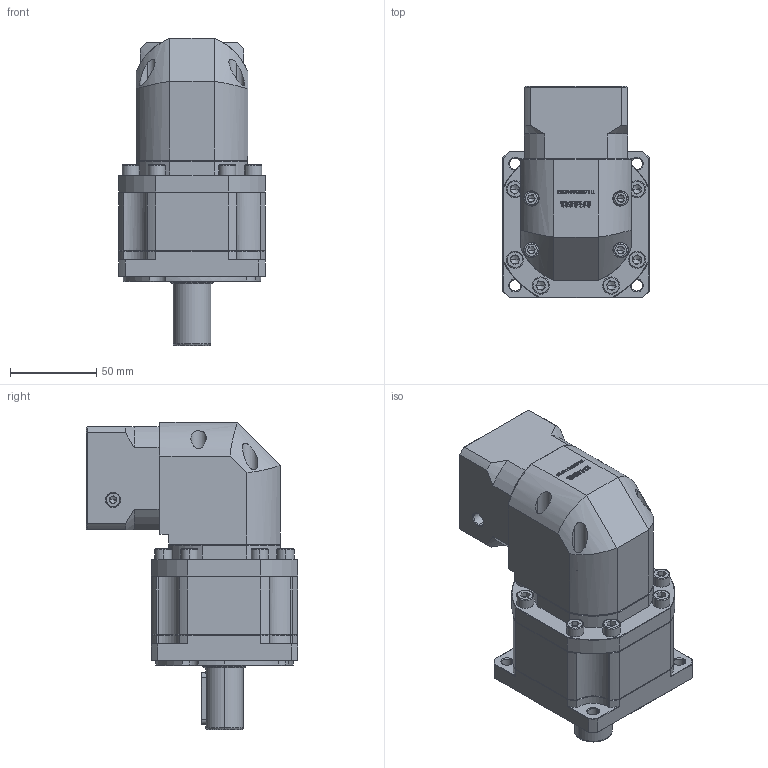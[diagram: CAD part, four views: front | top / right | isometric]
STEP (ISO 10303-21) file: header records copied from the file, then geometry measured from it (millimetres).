
FILE_DESCRIPTION (( 'STEP AP214' ), '1' );
FILE_NAME ('ZBR90-D22-L2-6.35-38.1-47.14x47.14-M4.step', '2022-05-07T15:20:38', ( '' ), ( 'Microsoft' ), 'SwSTEP 2.0', 'SolidWorks 2016', '' );
FILE_SCHEMA (( 'AUTOMOTIVE_DESIGN' ));
Length unit declared in the file: millimetre
Products named in the file (1): ZBR90-D22-L2-6.35-38.1-47.14x47.14-M4
Bounding box: 85 x 122.7 x 178.5 mm (x, y, z)
Volume: 807257.4 mm3; surface area: 100959.5 mm2
Topology: 5 solids, 5 shells, 3035 faces, 8119 edges, 5229 vertices
Faces by surface type: plane 1599, bspline 620, cylinder 439, cone 369, torus 8
Entity records: 161420 total; most frequent: CARTESIAN_POINT 56935, ORIENTED_EDGE 16146, DIRECTION 12410, EDGE_CURVE 8073, VECTOR 5332, LINE 5332, VERTEX_POINT 5229, AXIS2_PLACEMENT_3D 3539
